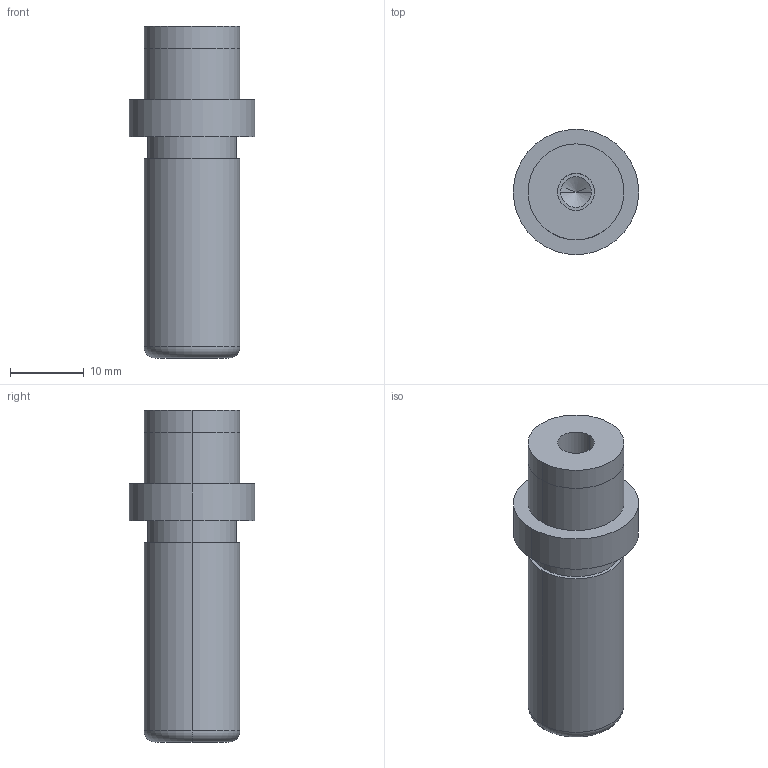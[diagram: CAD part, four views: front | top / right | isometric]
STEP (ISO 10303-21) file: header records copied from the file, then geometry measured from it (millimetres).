
FILE_DESCRIPTION(/* description */ (''),/* implementation_level */ '2;1');
FILE_NAME(/* name */ '3d_sgpw13-35_05298_r00.stp',/* time_stamp */ '2011-01-10T14:11:05+09:00',/* author */ ('MISUMI'),/* organization */ (''),/* preprocessor_version */ 'ST-DEVELOPER v11',/* originating_system */ 'UGS - NX 5.0',/* authorisation */ '');
FILE_SCHEMA (('CONFIG_CONTROL_DESIGN'));
Length unit declared in the file: millimetre
Products named in the file (1): 3d_sgpw13-35_05298_r00
Bounding box: 17 x 17 x 45 mm (x, y, z)
Volume: 5809.1 mm3; surface area: 2806.9 mm2
Topology: 1 solids, 1 shells, 31 faces, 64 edges, 38 vertices
Faces by surface type: cylinder 18, plane 7, cone 4, torus 2
Entity records: 890 total; most frequent: DIRECTION 162, CARTESIAN_POINT 130, ORIENTED_EDGE 120, AXIS2_PLACEMENT_3D 70, EDGE_CURVE 60, EDGE_LOOP 38, CIRCLE 38, VERTEX_POINT 38
